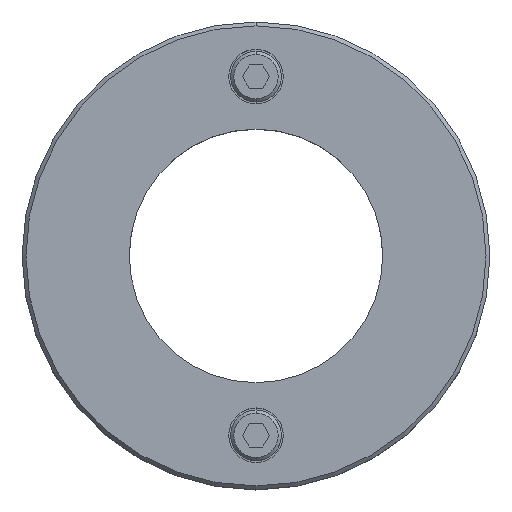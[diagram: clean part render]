
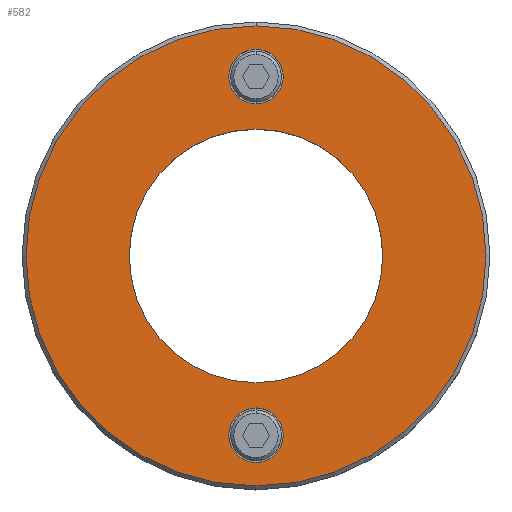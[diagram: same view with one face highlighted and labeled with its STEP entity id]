
A CAD part, top view. The second image highlights one B-rep face of the part: STEP entity #582.
In plain terms, the highlighted planar face has unit normal (0, 0, 1).
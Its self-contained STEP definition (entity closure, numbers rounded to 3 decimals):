
#105=VERTEX_POINT(' ',#106);
#106=CARTESIAN_POINT('',(0.,32.5,25.));
#107=VERTEX_POINT(' ',#108);
#108=CARTESIAN_POINT('',(0.,-32.5,25.));
#117=VERTEX_POINT(' ',#118);
#118=CARTESIAN_POINT('',(0.,53.,25.));
#119=VERTEX_POINT(' ',#120);
#120=CARTESIAN_POINT('',(0.,39.,25.));
#125=VERTEX_POINT(' ',#126);
#126=CARTESIAN_POINT('',(0.,-39.,25.));
#127=VERTEX_POINT(' ',#128);
#128=CARTESIAN_POINT('',(0.,-53.,25.));
#137=VERTEX_POINT(' ',#138);
#138=CARTESIAN_POINT('',(0.,-59.01,25.));
#139=VERTEX_POINT(' ',#140);
#140=CARTESIAN_POINT('',(0.,59.01,25.));
#199=CIRCLE('',#200,32.5);
#200=AXIS2_PLACEMENT_3D('',#201,#202,#203);
#201=CARTESIAN_POINT('',(0.,0.,25.));
#202=DIRECTION('',(0.,0.,-1.));
#203=DIRECTION('',(-1.,0.,0.));
#204=EDGE_CURVE(' ',#105,#107,#199,.T.);
#205=CIRCLE('',#206,32.5);
#206=AXIS2_PLACEMENT_3D('',#207,#208,#209);
#207=CARTESIAN_POINT('',(0.,0.,25.));
#208=DIRECTION('',(0.,0.,-1.));
#209=DIRECTION('',(1.,0.,0.));
#210=EDGE_CURVE(' ',#107,#105,#205,.T.);
#255=CIRCLE('',#256,7.);
#256=AXIS2_PLACEMENT_3D('',#257,#258,#259);
#257=CARTESIAN_POINT('',(0.,46.,25.));
#258=DIRECTION('',(0.,0.,1.));
#259=DIRECTION('',(1.,0.,0.));
#260=EDGE_CURVE(' ',#117,#119,#255,.T.);
#277=CIRCLE('',#278,7.);
#278=AXIS2_PLACEMENT_3D('',#279,#280,#281);
#279=CARTESIAN_POINT('',(0.,46.,25.));
#280=DIRECTION('',(0.,0.,1.));
#281=DIRECTION('',(-1.,0.,0.));
#282=EDGE_CURVE(' ',#119,#117,#277,.T.);
#289=CIRCLE('',#290,7.);
#290=AXIS2_PLACEMENT_3D('',#291,#292,#293);
#291=CARTESIAN_POINT('',(0.,-46.,25.));
#292=DIRECTION('',(0.,0.,1.));
#293=DIRECTION('',(1.,0.,0.));
#294=EDGE_CURVE(' ',#125,#127,#289,.T.);
#311=CIRCLE('',#312,7.);
#312=AXIS2_PLACEMENT_3D('',#313,#314,#315);
#313=CARTESIAN_POINT('',(0.,-46.,25.));
#314=DIRECTION('',(0.,0.,1.));
#315=DIRECTION('',(-1.,0.,0.));
#316=EDGE_CURVE(' ',#127,#125,#311,.T.);
#345=CIRCLE('',#346,59.01);
#346=AXIS2_PLACEMENT_3D('',#347,#348,#349);
#347=CARTESIAN_POINT('',(0.,0.,25.));
#348=DIRECTION('',(0.,0.,1.));
#349=DIRECTION('',(-1.,0.,0.));
#350=EDGE_CURVE(' ',#139,#137,#345,.F.);
#351=CIRCLE('',#352,59.01);
#352=AXIS2_PLACEMENT_3D('',#353,#354,#355);
#353=CARTESIAN_POINT('',(0.,0.,25.));
#354=DIRECTION('',(0.,0.,1.));
#355=DIRECTION('',(1.,0.,0.));
#356=EDGE_CURVE(' ',#137,#139,#351,.F.);
#561=ORIENTED_EDGE('',*,*,#350,.F.);
#562=ORIENTED_EDGE('',*,*,#356,.F.);
#563=EDGE_LOOP('',(#561,#562));
#564=FACE_OUTER_BOUND('',#563,.T.);
#565=ORIENTED_EDGE('',*,*,#316,.F.);
#566=ORIENTED_EDGE('',*,*,#294,.F.);
#567=EDGE_LOOP('',(#565,#566));
#568=FACE_BOUND('',#567,.T.);
#569=ORIENTED_EDGE('',*,*,#282,.F.);
#570=ORIENTED_EDGE('',*,*,#260,.F.);
#571=EDGE_LOOP('',(#569,#570));
#572=FACE_BOUND('',#571,.T.);
#573=ORIENTED_EDGE('',*,*,#204,.T.);
#574=ORIENTED_EDGE('',*,*,#210,.T.);
#575=EDGE_LOOP('',(#573,#574));
#576=FACE_BOUND('',#575,.T.);
#577=PLANE('',#578);
#578=AXIS2_PLACEMENT_3D('',#579,#580,#581);
#579=CARTESIAN_POINT('',(60.,0.,25.));
#580=DIRECTION('',(0.,0.,1.));
#581=DIRECTION('',(0.,1.,0.));
#582=ADVANCED_FACE('',(#564,#568,#572,#576),#577,.T.);
